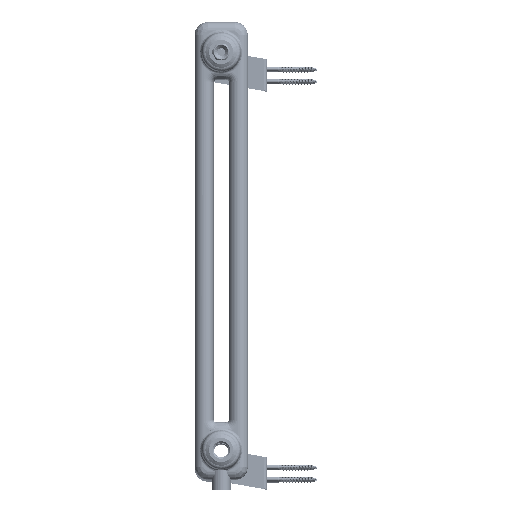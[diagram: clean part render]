
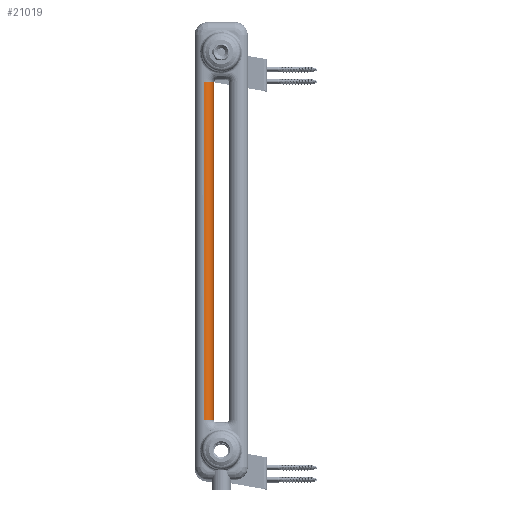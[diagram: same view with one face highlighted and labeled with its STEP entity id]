
A CAD part, top view. The second image highlights one B-rep face of the part: STEP entity #21019.
In plain terms, the highlighted cylindrical face has radius 12.5 mm (diameter 25 mm), a partial arc.
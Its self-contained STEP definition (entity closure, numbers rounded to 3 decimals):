
#10231=CIRCLE('',#140540,12.5);
#10237=CIRCLE('',#140547,12.5);
#10268=CIRCLE('',#140591,12.5);
#10269=CIRCLE('',#140592,12.5);
#21019=ADVANCED_FACE('',(#31323),#26919,.T.);
#26919=CYLINDRICAL_SURFACE('',#140593,12.5);
#31323=FACE_OUTER_BOUND('',#40061,.T.);
#40061=EDGE_LOOP('',(#71588,#71589,#71590,#71591,#71592,#71593));
#47422=LINE('',#334069,#52229);
#47423=LINE('',#334070,#52230);
#52229=VECTOR('',#163101,1.);
#52230=VECTOR('',#163102,1.);
#71588=ORIENTED_EDGE('',*,*,#116815,.F.);
#71589=ORIENTED_EDGE('',*,*,#116816,.F.);
#71590=ORIENTED_EDGE('',*,*,#116817,.F.);
#71591=ORIENTED_EDGE('',*,*,#116748,.T.);
#71592=ORIENTED_EDGE('',*,*,#116742,.T.);
#71593=ORIENTED_EDGE('',*,*,#116818,.F.);
#101234=VERTEX_POINT('',#332758);
#101235=VERTEX_POINT('',#332759);
#101238=VERTEX_POINT('',#332767);
#101283=VERTEX_POINT('',#334065);
#101284=VERTEX_POINT('',#334066);
#101285=VERTEX_POINT('',#334068);
#116742=EDGE_CURVE('',#101234,#101235,#10231,.T.);
#116748=EDGE_CURVE('',#101238,#101234,#10237,.T.);
#116815=EDGE_CURVE('',#101283,#101284,#10268,.T.);
#116816=EDGE_CURVE('',#101285,#101283,#10269,.T.);
#116817=EDGE_CURVE('',#101238,#101285,#47422,.T.);
#116818=EDGE_CURVE('',#101284,#101235,#47423,.T.);
#140540=AXIS2_PLACEMENT_3D('',#332757,#162978,#162979);
#140547=AXIS2_PLACEMENT_3D('',#332769,#162992,#162993);
#140591=AXIS2_PLACEMENT_3D('',#334064,#163097,#163098);
#140592=AXIS2_PLACEMENT_3D('',#334067,#163099,#163100);
#140593=AXIS2_PLACEMENT_3D('',#334071,#163103,#163104);
#162978=DIRECTION('',(0.,1.,0.));
#162979=DIRECTION('',(1.,0.,0.));
#162992=DIRECTION('',(0.,1.,0.));
#162993=DIRECTION('',(0.,0.,1.));
#163097=DIRECTION('',(0.,1.,0.));
#163098=DIRECTION('',(1.,0.,0.));
#163099=DIRECTION('',(0.,1.,0.));
#163100=DIRECTION('',(0.,0.,1.));
#163101=DIRECTION('',(0.,1.,0.));
#163102=DIRECTION('',(0.,-1.,0.));
#163103=DIRECTION('',(0.,-1.,0.));
#163104=DIRECTION('',(0.,0.,1.));
#332757=CARTESIAN_POINT('',(12.5,79.5,1192.5));
#332758=CARTESIAN_POINT('',(25.,79.5,1192.5));
#332759=CARTESIAN_POINT('',(12.5,79.5,1180.));
#332767=CARTESIAN_POINT('',(12.5,79.5,1205.));
#332769=CARTESIAN_POINT('',(12.5,79.5,1192.5));
#334064=CARTESIAN_POINT('',(12.5,523.5,1192.5));
#334065=CARTESIAN_POINT('',(25.,523.5,1192.5));
#334066=CARTESIAN_POINT('',(12.5,523.5,1180.));
#334067=CARTESIAN_POINT('',(12.5,523.5,1192.5));
#334068=CARTESIAN_POINT('',(12.5,523.5,1205.));
#334069=CARTESIAN_POINT('',(12.5,79.5,1205.));
#334070=CARTESIAN_POINT('',(12.5,523.5,1180.));
#334071=CARTESIAN_POINT('',(12.5,523.5,1192.5));
